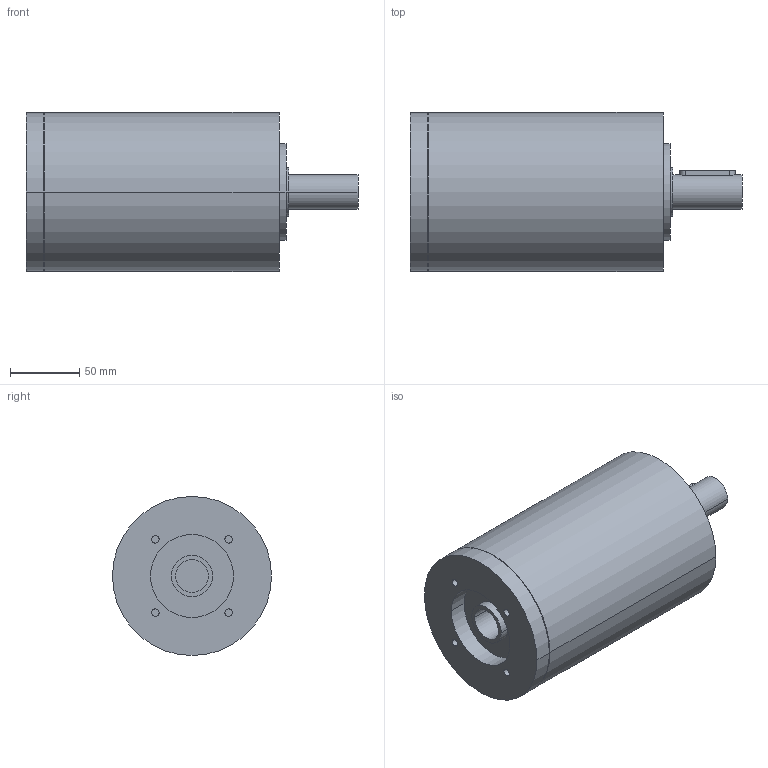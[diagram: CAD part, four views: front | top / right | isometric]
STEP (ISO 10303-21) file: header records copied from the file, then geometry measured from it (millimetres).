
FILE_DESCRIPTION(('CoCreate Modeling STEP Export'),'2;1');
FILE_NAME('GPR125_ig-9-12-16-20-28-35_25_B14_24_P02.stp','2014-08-26T14:11:13',(''),(''),'CoCreate Modeling STEP processor for AP214 (Solid Model)','CoCreate Modeling 16.00C 25-Feb-2009 (C) Parametric Technology GmbH','');
FILE_SCHEMA(('AUTOMOTIVE_DESIGN { 1 0 10303 214 1 1 1 1 }'));
Length unit declared in the file: millimetre
Products named in the file (2): GPR125_ig-9-12-16-20-28-35_25_B14_24_P02
Assembly tree (1 placements, depth 2):
  GPR125_ig-9-12-16-20-28-35_25_B14_24_P02
    GPR125_ig-9-12-16-20-28-35_25_B14_24_P02
Bounding box: 240 x 115 x 115 mm (x, y, z)
Volume: 1883199.4 mm3; surface area: 103947.3 mm2
Topology: 1 solids, 1 shells, 72 faces, 173 edges, 121 vertices
Faces by surface type: cylinder 44, plane 24, cone 4
Entity records: 1805 total; most frequent: ORIENTED_EDGE 342, CARTESIAN_POINT 336, DIRECTION 240, EDGE_CURVE 171, VERTEX_POINT 121, AXIS2_PLACEMENT_3D 93, EDGE_LOOP 92, FACE_OUTER_BOUND 72
